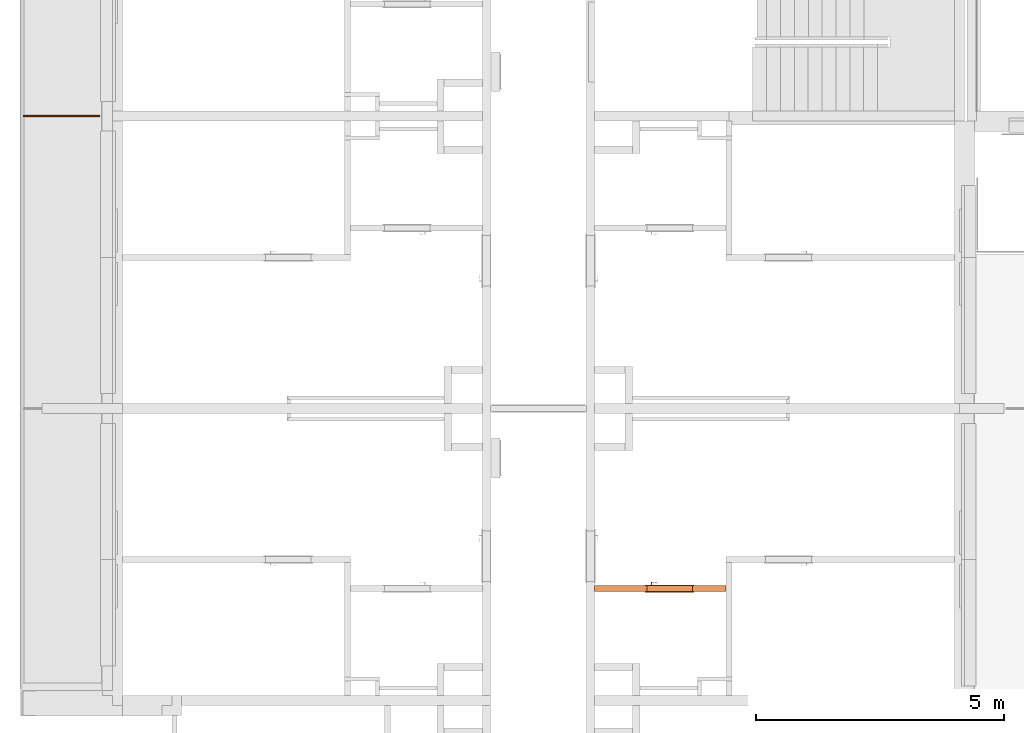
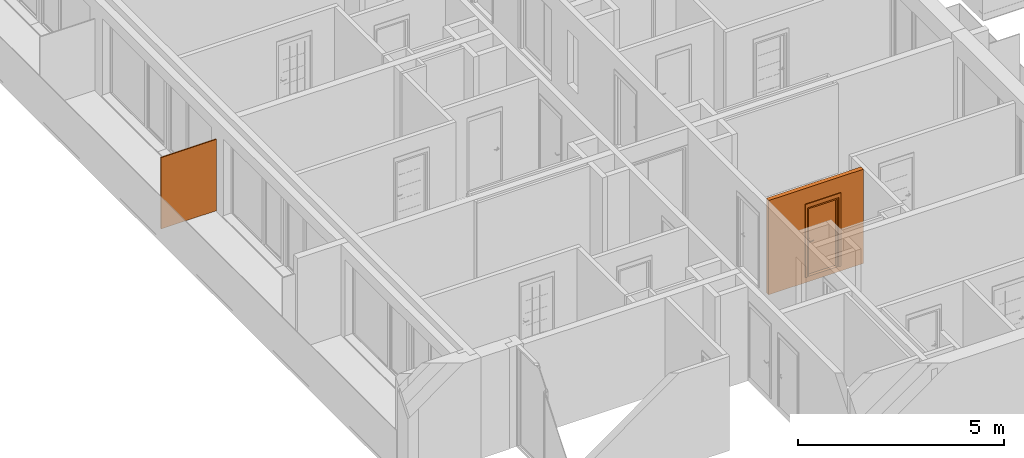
# One storey, part 11 of 64: 3 proxies, 1 opening.
"""IFC2X3 building model written with IfcOpenShell, lengths in millimetres."""

from ifc_helpers import new_model, entity, si_unit, converted_unit, derived_unit, money_unit, direction, frame, origin_with_axes, origin_2d_with_axis, place, context, subcontext, project, spatial, polyline, rectangle, outline, extrude, open_shell, faceted_brep, surface_model, source, transform, mapped, material, type_object, element, fill, save


model = new_model("IFC2X3")

# Units and contexts
model_context = context("Model", 3, precision=0.01, world=origin_with_axes(), true_north=direction((0.34421633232, 0.938890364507)))
body_context = subcontext(model_context, "Body", "Model", "MODEL_VIEW")
ifc_project = project(units=[si_unit("LENGTHUNIT", "METRE", prefix="MILLI"), si_unit("AREAUNIT", "SQUARE_METRE"), si_unit("VOLUMEUNIT", "CUBIC_METRE"), converted_unit("PLANEANGLEUNIT", "DEGREE", entity("IfcPlaneAngleMeasure", 0.0174532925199), si_unit("PLANEANGLEUNIT", "RADIAN"), dimensions=[0, 0, 0, 0, 0, 0, 0]), si_unit("SOLIDANGLEUNIT", "STERADIAN"), money_unit("USD"), converted_unit("TIMEUNIT", "Year", entity("IfcTimeMeasure", 31556926.0), si_unit("TIMEUNIT", "SECOND"), dimensions=[0, 0, 1, 0, 0, 0, 0]), si_unit("MASSUNIT", "GRAM", prefix="KILO"), si_unit("THERMODYNAMICTEMPERATUREUNIT", "DEGREE_CELSIUS"), si_unit("LUMINOUSINTENSITYUNIT", "LUMEN"), si_unit("ENERGYUNIT", "JOULE", prefix="MEGA"), derived_unit("THERMALCONDUCTANCEUNIT", [(si_unit("POWERUNIT", "WATT"), 1), (si_unit("LENGTHUNIT", "METRE"), -1), (si_unit("THERMODYNAMICTEMPERATUREUNIT", "KELVIN"), -1)]), derived_unit("SPECIFICHEATCAPACITYUNIT", [(si_unit("ENERGYUNIT", "JOULE"), 1), (si_unit("MASSUNIT", "GRAM", prefix="KILO"), -1), (si_unit("THERMODYNAMICTEMPERATUREUNIT", "KELVIN"), -1)]), derived_unit("MASSDENSITYUNIT", [(si_unit("MASSUNIT", "GRAM", prefix="KILO"), 1), (si_unit("VOLUMEUNIT", "CUBIC_METRE"), -1)])], contexts=[model_context])

# Site, building, storey
site_placement = place(None, origin_with_axes())
site = spatial("IfcSite", under=ifc_project, at=site_placement, Name="USTRONIE MORSKIE", CompositionType="ELEMENT")
building_placement = place(site_placement, origin_with_axes())
building = spatial("IfcBuilding", under=site, at=building_placement, Name="Budynek", CompositionType="ELEMENT")
storey_placement = place(building_placement, frame((0.0, 0.0, 7000.0), z_axis=(0.0, 0.0, 1.0), x_axis=(1.0, 0.0, 0.0)))
storey = spatial("IfcBuildingStorey", under=building, at=storey_placement, Name="PIĘTRO 2", CompositionType="ELEMENT", Elevation=7000.0)

# Proxies, opening
ifc_material_1 = material(Name="Bloczki silikatowe")
building_element_proxy_type_1 = type_object("IfcBuildingElementProxyType", Name="Bloczki silikatowe 120", PredefinedType="NOTDEFINED")
proxy_1_placement = place(storey_placement, frame((362417.920919, 717361.219701, -160.0), z_axis=(0.0, 0.0, 1.0), x_axis=(-1.0, 0.0, 0.0)))
proxy_1 = element("IfcBuildingElementProxy", 1, at=proxy_1_placement, inside=storey, type_object=building_element_proxy_type_1, material=ifc_material_1, Name="SW-04", context=body_context, shape_type="Brep", body=[
    faceted_brep([(2720.0, -59.9999999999, 2800.0), (2720.0, 59.9999999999, 2800.0), (60.0, 59.9999999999, 2800.0), (60.0, -59.9999999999, 2800.0), (2720.0, -59.9999999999, 0.0), (2720.0, 59.9999999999, 0.0), (60.0, 59.9999999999, 0.0), (60.0, -59.9999999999, 0.0)], [[[0, 1, 2, 3]], [[1, 0, 4, 5]], [[1, 5, 6, 2]], [[7, 3, 2, 6]], [[4, 0, 3, 7]], [[5, 4, 7, 6]]]),
])
opening_placement = place(proxy_1_placement, frame((1200.0, 0.0, 160.0), z_axis=(0.0, 0.0, 1.0), x_axis=(1.0, 0.0, 0.0)))
opening = element("IfcOpeningElement", 2, at=opening_placement, cuts=proxy_1, Name="Dw.4", context=body_context, shape_type="SweptSolid", body=[
    extrude(rectangle(XDim=920.0, YDim=2070.0, at=origin_2d_with_axis()), frame((0.0, 120.0, 1035.0), z_axis=(0.0, -1.0, 0.0), x_axis=(-1.0, 0.0, 0.0)), (0.0, 0.0, 1.0), 360.0),
    extrude(rectangle(XDim=994.0, YDim=2177.0, at=origin_2d_with_axis()), frame((0.0, 60.0000000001, 1088.5), z_axis=(0.0, -1.0, 0.0), x_axis=(-1.0, 0.0, 0.0)), (0.0, 0.0, -1.0), 120.0),
    extrude(rectangle(XDim=994.0, YDim=2177.0, at=origin_2d_with_axis()), frame((0.0, -59.9999999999, 1088.5), z_axis=(0.0, 1.0, 0.0), x_axis=(-1.0, 0.0, 0.0)), (0.0, 0.0, -1.0), 120.0),
])
building_element_proxy_type_2 = type_object("IfcBuildingElementProxyType", Name="Drzwi 23", PredefinedType="NOTDEFINED")
shared_shape = source(origin_with_axes(), body_context, "Body", "SurfaceModel", [
    faceted_brep([(-460.0, -115.0, 0.0), (-435.0, -115.0, 0.0), (-435.0, -120.0, 0.0), (-460.0, -120.0, 0.0), (-460.0, -115.0, 2070.0), (-435.0, -115.0, 2045.0), (-435.0, -120.0, 2045.0), (-460.0, -120.0, 2070.0)], [[[0, 1, 2, 3]], [[0, 4, 5, 1]], [[1, 5, 6, 2]], [[3, 2, 6, 7]], [[4, 0, 3, 7]], [[5, 4, 7, 6]]]),
    faceted_brep([(460.0, -115.0, 2070.0), (435.0, -115.0, 2045.0), (435.0, -120.0, 2045.0), (460.0, -120.0, 2070.0), (460.0, -115.0, 0.0), (435.0, -115.0, 0.0), (435.0, -120.0, 0.0), (460.0, -120.0, 0.0)], [[[0, 1, 2, 3]], [[0, 4, 5, 1]], [[1, 5, 6, 2]], [[3, 2, 6, 7]], [[4, 0, 3, 7]], [[5, 4, 7, 6]]]),
    faceted_brep([(-435.0, -115.0, 2045.0), (435.0, -115.0, 2045.0), (435.0, -120.0, 2045.0), (-435.0, -120.0, 2045.0), (-460.0, -115.0, 2070.0), (460.0, -115.0, 2070.0), (460.0, -120.0, 2070.0), (-460.0, -120.0, 2070.0)], [[[0, 1, 2, 3]], [[0, 4, 5, 1]], [[1, 5, 6, 2]], [[3, 2, 6, 7]], [[4, 0, 3, 7]], [[5, 4, 7, 6]]]),
    faceted_brep([(-497.0, -139.0, 0.0), (-497.0, -120.0, 0.0), (-447.0, -120.0, 0.0), (-447.0, -139.0, 0.0), (-497.0, -139.0, 2177.0), (-497.0, -120.0, 2177.0), (-447.0, -120.0, 2057.0), (-447.0, -139.0, 2057.0)], [[[0, 1, 2, 3]], [[4, 5, 1, 0]], [[1, 5, 6, 2]], [[3, 2, 6, 7]], [[0, 3, 7, 4]], [[7, 6, 5, 4]]]),
    faceted_brep([(497.0, -139.0, 2177.0), (497.0, -120.0, 2177.0), (447.0, -120.0, 2057.0), (447.0, -139.0, 2057.0), (497.0, -139.0, 0.0), (497.0, -120.0, 0.0), (447.0, -120.0, 0.0), (447.0, -139.0, 0.0)], [[[0, 1, 2, 3]], [[4, 5, 1, 0]], [[1, 5, 6, 2]], [[3, 2, 6, 7]], [[0, 3, 7, 4]], [[7, 6, 5, 4]]]),
    faceted_brep([(-497.0, -139.0, 2177.0), (-497.0, -120.0, 2177.0), (-447.0, -120.0, 2057.0), (-447.0, -139.0, 2057.0), (497.0, -139.0, 2177.0), (497.0, -120.0, 2177.0), (447.0, -120.0, 2057.0), (447.0, -139.0, 2057.0)], [[[0, 1, 2, 3]], [[4, 5, 1, 0]], [[1, 5, 6, 2]], [[3, 2, 6, 7]], [[0, 3, 7, 4]], [[7, 6, 5, 4]]]),
    faceted_brep([(-497.0, 19.0, 0.0), (-447.0, 19.0, 0.0), (-447.0, 0.0, 0.0), (-497.0, 0.0, 0.0), (-497.0, 19.0, 2177.0), (-447.0, 19.0, 2057.0), (-447.0, 0.0, 2057.0), (-497.0, 0.0, 2177.0)], [[[0, 1, 2, 3]], [[0, 4, 5, 1]], [[1, 5, 6, 2]], [[3, 2, 6, 7]], [[4, 0, 3, 7]], [[5, 4, 7, 6]]]),
    faceted_brep([(497.0, 19.0, 2177.0), (447.0, 19.0, 2057.0), (447.0, 0.0, 2057.0), (497.0, 0.0, 2177.0), (497.0, 19.0, 0.0), (447.0, 19.0, 0.0), (447.0, 0.0, 0.0), (497.0, 0.0, 0.0)], [[[0, 1, 2, 3]], [[0, 4, 5, 1]], [[1, 5, 6, 2]], [[3, 2, 6, 7]], [[4, 0, 3, 7]], [[5, 4, 7, 6]]]),
    faceted_brep([(-497.0, 19.0, 2177.0), (-447.0, 19.0, 2057.0), (-447.0, 0.0, 2057.0), (-497.0, 0.0, 2177.0), (497.0, 19.0, 2177.0), (447.0, 19.0, 2057.0), (447.0, 0.0, 2057.0), (497.0, 0.0, 2177.0)], [[[0, 1, 2, 3]], [[0, 4, 5, 1]], [[1, 5, 6, 2]], [[3, 2, 6, 7]], [[4, 0, 3, 7]], [[5, 4, 7, 6]]]),
    faceted_brep([(-400.0, -40.0, 0.0), (-400.0, -40.0, 2000.0), (-400.0, -115.0, 2000.0), (-400.0, -115.0, 0.0), (-412.0, -40.0, 2000.0), (-412.0, -40.0, 0.0), (-412.0, 0.0, 2000.0), (-460.0, 0.0, 2000.0), (-460.0, -115.0, 2000.0), (-460.0, -115.0, 0.0), (-460.0, 0.0, 0.0), (-412.0, 0.0, 0.0)], [[[0, 1, 2, 3]], [[4, 1, 0, 5]], [[4, 6, 7, 8, 2, 1]], [[3, 2, 8, 9]], [[5, 0, 3, 9, 10, 11]], [[6, 4, 5, 11]], [[6, 11, 10, 7]], [[10, 9, 8, 7]]]),
    faceted_brep([(412.0, -40.0, 2000.0), (400.0, -40.0, 2000.0), (400.0, -115.0, 2000.0), (460.0, -115.0, 2000.0), (460.0, 0.0, 2000.0), (412.0, 0.0, 2000.0), (412.0, -40.0, 0.0), (400.0, -40.0, 0.0), (400.0, -115.0, 0.0), (460.0, -115.0, 0.0), (460.0, 0.0, 0.0), (412.0, 0.0, 0.0)], [[[0, 1, 2, 3, 4, 5]], [[1, 0, 6, 7]], [[1, 7, 8, 2]], [[3, 2, 8, 9]], [[4, 3, 9, 10]], [[11, 5, 4, 10]], [[0, 5, 11, 6]], [[6, 11, 10, 9, 8, 7]]]),
    faceted_brep([(-412.0, 0.0, 2012.0), (-412.0, 0.0, 2000.0), (-460.0, 0.0, 2000.0), (-460.0, 0.0, 2070.0), (460.0, 0.0, 2070.0), (460.0, 0.0, 2000.0), (412.0, 0.0, 2000.0), (412.0, 0.0, 2012.0), (-412.0, -40.0, 2012.0), (-412.0, -40.0, 2000.0), (-400.0, -40.0, 2000.0), (-400.0, -115.0, 2000.0), (-460.0, -115.0, 2000.0), (-460.0, -115.0, 2070.0), (460.0, -115.0, 2070.0), (460.0, -115.0, 2000.0), (412.0, -40.0, 2000.0), (400.0, -115.0, 2000.0), (400.0, -40.0, 2000.0), (412.0, -40.0, 2012.0)], [[[0, 1, 2, 3, 4, 5, 6, 7]], [[1, 0, 8, 9]], [[9, 10, 11, 12, 2, 1]], [[2, 12, 13, 3]], [[3, 13, 14, 4]], [[4, 14, 15, 5]], [[16, 6, 5, 15, 17, 18]], [[7, 6, 16, 19]], [[0, 7, 19, 8]], [[16, 18, 10, 9, 8, 19]], [[10, 18, 17, 11]], [[17, 15, 14, 13, 12, 11]]]),
    faceted_brep([(-390.5, -40.0, 1060.0), (-390.5, -43.0, 1060.0), (-333.5, -43.0, 1060.0), (-333.5, -40.0, 1060.0), (-390.5, -40.0, 870.0), (-390.5, -43.0, 870.0), (-333.5, -43.0, 870.0), (-333.5, -40.0, 870.0)], [[[0, 1, 2, 3]], [[4, 5, 1, 0]], [[1, 5, 6, 2]], [[3, 2, 6, 7]], [[0, 3, 7, 4]], [[7, 6, 5, 4]]]),
    faceted_brep([(-362.0, -104.0, 990.0), (-362.0, -111.0, 990.0), (-367.0, -111.0, 991.339745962), (-367.0, -104.0, 991.339745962), (-337.0, -104.0, 990.0), (-337.0, -111.0, 990.0), (-337.0, -111.0, 1010.0), (-362.0, -111.0, 1010.0), (-367.0, -111.0, 1008.66025404), (-370.660254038, -111.0, 1005.0), (-372.0, -111.0, 1000.0), (-370.660254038, -111.0, 995.0), (-370.660254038, -104.0, 995.0), (-372.0, -104.0, 1000.0), (-370.660254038, -104.0, 1005.0), (-367.0, -104.0, 1008.66025404), (-362.0, -104.0, 1010.0), (-337.0, -104.0, 1010.0)], [[[0, 1, 2, 3]], [[4, 5, 1, 0]], [[1, 5, 6, 7, 8, 9, 10, 11, 2]], [[3, 2, 11, 12]], [[0, 3, 12, 13, 14, 15, 16, 17, 4]], [[17, 6, 5, 4]], [[16, 7, 6, 17]], [[15, 8, 7, 16]], [[14, 9, 8, 15]], [[13, 10, 9, 14]], [[12, 11, 10, 13]]]),
    surface_model("IfcShellBasedSurfaceModel", [(-337.0, -104.0, 1010.0), (-323.596090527, -111.0, 1009.60730092), (-323.901717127, -104.0, 1009.60730092), (-337.0, -111.0, 1010.0), (-296.890283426, -108.663544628, 1008.82190275), (-323.901717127, -104.0, 990.392699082), (-337.0, -104.0, 990.0), (-337.0, -111.0, 990.0), (-323.596090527, -111.0, 990.392699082), (-296.890283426, -108.663544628, 991.178097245), (-297.804837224, -101.716818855, 1008.82190275), (-297.804837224, -101.716818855, 991.178097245), (-270.489735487, -104.008415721, 991.963495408), (-270.489735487, -104.008415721, 1008.03650459), (-272.006256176, -97.1678329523, 1008.03650459), (-272.006256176, -97.1678329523, 991.963495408), (-244.59537082, -97.0700416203, 992.748893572), (-244.59537082, -97.0700416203, 1007.25110643), (-246.702316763, -90.3876628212, 1007.25110643), (-246.702316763, -90.3876628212, 992.748893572), (-236.538795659, -94.1376880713, 993.0), (-236.538795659, -94.1376880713, 1007.0), (-238.829442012, -87.5221707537, 1007.0), (-238.829442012, -87.5221707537, 993.0)], [open_shell([[[0, 1, 2]], [[0, 3, 1]], [[2, 1, 4]], [[0, 2, 5, 6]], [[3, 7, 8, 1]], [[1, 8, 9, 4]], [[2, 4, 10]], [[2, 10, 11, 5]], [[5, 7, 6]], [[5, 8, 7]], [[11, 9, 8]], [[4, 9, 12, 13]], [[10, 4, 13]], [[10, 14, 15, 11]], [[11, 8, 5]], [[15, 9, 11]], [[15, 12, 9]], [[13, 12, 16, 17]], [[10, 13, 14]], [[14, 18, 19, 15]], [[19, 12, 15]], [[19, 16, 12]], [[17, 16, 20, 21]], [[14, 13, 17]], [[14, 17, 18]], [[18, 22, 23, 19]], [[23, 16, 19]], [[23, 20, 16]], [[22, 21, 20, 23]], [[18, 17, 21]], [[18, 21, 22]]])]),
    faceted_brep([(-351.607695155, -53.0, 994.0), (-350.741669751, -43.0, 993.5), (-349.0, -43.0, 1000.0), (-350.0, -53.0, 1000.0), (-356.0, -53.0, 989.607695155), (-355.5, -43.0, 988.741669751), (-362.0, -43.0, 987.0), (-368.5, -43.0, 988.741669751), (-373.258330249, -43.0, 993.5), (-375.0, -43.0, 1000.0), (-373.258330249, -43.0, 1006.5), (-368.5, -43.0, 1011.25833025), (-362.0, -43.0, 1013.0), (-355.5, -43.0, 1011.25833025), (-350.741669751, -43.0, 1006.5), (-351.607695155, -53.0, 1006.0), (-356.0, -53.0, 1010.39230485), (-362.0, -53.0, 1012.0), (-368.0, -53.0, 1010.39230485), (-372.392304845, -53.0, 1006.0), (-374.0, -53.0, 1000.0), (-372.392304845, -53.0, 994.0), (-368.0, -53.0, 989.607695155), (-362.0, -53.0, 988.0)], [[[0, 1, 2, 3]], [[4, 5, 1, 0]], [[2, 1, 5, 6, 7, 8, 9, 10, 11, 12, 13, 14]], [[3, 2, 14, 15]], [[3, 15, 16, 17, 18, 19, 20, 21, 22, 23, 4, 0]], [[23, 6, 5, 4]], [[22, 7, 6, 23]], [[21, 8, 7, 22]], [[20, 9, 8, 21]], [[19, 10, 9, 20]], [[18, 11, 10, 19]], [[17, 12, 11, 18]], [[16, 13, 12, 17]], [[15, 14, 13, 16]]]),
    faceted_brep([(-344.679491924, -47.0, 895.0), (-342.947441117, -43.0, 894.0), (-340.0, -43.0, 905.0), (-342.0, -47.0, 905.0), (-352.0, -47.0, 887.679491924), (-351.0, -43.0, 885.947441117), (-362.0, -43.0, 883.0), (-373.0, -43.0, 885.947441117), (-381.052558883, -43.0, 894.0), (-384.0, -43.0, 905.0), (-381.052558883, -43.0, 916.0), (-373.0, -43.0, 924.052558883), (-362.0, -43.0, 927.0), (-351.0, -43.0, 924.052558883), (-342.947441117, -43.0, 916.0), (-344.679491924, -47.0, 915.0), (-352.0, -47.0, 922.320508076), (-362.0, -47.0, 925.0), (-372.0, -47.0, 922.320508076), (-379.320508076, -47.0, 915.0), (-382.0, -47.0, 905.0), (-379.320508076, -47.0, 895.0), (-372.0, -47.0, 887.679491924), (-362.0, -47.0, 885.0)], [[[0, 1, 2, 3]], [[4, 5, 1, 0]], [[2, 1, 5, 6, 7, 8, 9, 10, 11, 12, 13, 14]], [[3, 2, 14, 15]], [[3, 15, 16, 17, 18, 19, 20, 21, 22, 23, 4, 0]], [[23, 6, 5, 4]], [[22, 7, 6, 23]], [[21, 8, 7, 22]], [[20, 9, 8, 21]], [[19, 10, 9, 20]], [[18, 11, 10, 19]], [[17, 12, 11, 18]], [[16, 13, 12, 17]], [[15, 14, 13, 16]]]),
    faceted_brep([(-357.050252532, -49.0, 909.050252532), (-356.343145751, -47.0, 908.343145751), (-354.0, -47.0, 914.0), (-355.0, -49.0, 914.0), (-362.0, -49.0, 907.0), (-362.0, -47.0, 906.0), (-367.656854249, -47.0, 908.343145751), (-370.0, -47.0, 914.0), (-367.656854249, -47.0, 919.656854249), (-362.0, -47.0, 922.0), (-356.343145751, -47.0, 919.656854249), (-357.050252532, -49.0, 918.949747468), (-362.0, -49.0, 921.0), (-366.949747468, -49.0, 918.949747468), (-369.0, -49.0, 914.0), (-366.949747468, -49.0, 909.050252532)], [[[0, 1, 2, 3]], [[4, 5, 1, 0]], [[2, 1, 5, 6, 7, 8, 9, 10]], [[3, 2, 10, 11]], [[3, 11, 12, 13, 14, 15, 4, 0]], [[15, 6, 5, 4]], [[14, 7, 6, 15]], [[13, 8, 7, 14]], [[12, 9, 8, 13]], [[11, 10, 9, 12]]]),
    faceted_brep([(-362.0, -53.0, 1010.0), (-362.0, -104.0, 1010.0), (-357.0, -104.0, 1008.66025404), (-357.0, -53.0, 1008.66025404), (-367.0, -53.0, 1008.66025404), (-367.0, -104.0, 1008.66025404), (-370.660254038, -104.0, 1005.0), (-372.0, -104.0, 1000.0), (-370.660254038, -104.0, 995.0), (-367.0, -104.0, 991.339745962), (-362.0, -104.0, 990.0), (-357.0, -104.0, 991.339745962), (-353.339745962, -104.0, 995.0), (-352.0, -104.0, 1000.0), (-353.339745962, -104.0, 1005.0), (-353.339745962, -53.0, 1005.0), (-352.0, -53.0, 1000.0), (-353.339745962, -53.0, 995.0), (-357.0, -53.0, 991.339745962), (-362.0, -53.0, 990.0), (-367.0, -53.0, 991.339745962), (-370.660254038, -53.0, 995.0), (-372.0, -53.0, 1000.0), (-370.660254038, -53.0, 1005.0)], [[[0, 1, 2, 3]], [[4, 5, 1, 0]], [[1, 5, 6, 7, 8, 9, 10, 11, 12, 13, 14, 2]], [[3, 2, 14, 15]], [[0, 3, 15, 16, 17, 18, 19, 20, 21, 22, 23, 4]], [[23, 6, 5, 4]], [[22, 7, 6, 23]], [[21, 8, 7, 22]], [[20, 9, 8, 21]], [[19, 10, 9, 20]], [[18, 11, 10, 19]], [[17, 12, 11, 18]], [[16, 13, 12, 17]], [[15, 14, 13, 16]]]),
    faceted_brep([(-390.5, 0.0, 1060.0), (-333.5, 0.0, 1060.0), (-333.5, 3.0, 1060.0), (-390.5, 3.0, 1060.0), (-390.5, 0.0, 870.0), (-333.5, 0.0, 870.0), (-333.5, 3.0, 870.0), (-390.5, 3.0, 870.0)], [[[0, 1, 2, 3]], [[0, 4, 5, 1]], [[1, 5, 6, 2]], [[3, 2, 6, 7]], [[4, 0, 3, 7]], [[5, 4, 7, 6]]]),
    faceted_brep([(-362.0, 64.0, 990.0), (-367.0, 64.0, 991.339745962), (-367.0, 71.0, 991.339745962), (-362.0, 71.0, 990.0), (-337.0, 64.0, 990.0), (-337.0, 64.0, 1010.0), (-362.0, 64.0, 1010.0), (-367.0, 64.0, 1008.66025404), (-370.660254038, 64.0, 1005.0), (-372.0, 64.0, 1000.0), (-370.660254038, 64.0, 995.0), (-370.660254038, 71.0, 995.0), (-372.0, 71.0, 1000.0), (-370.660254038, 71.0, 1005.0), (-367.0, 71.0, 1008.66025404), (-362.0, 71.0, 1010.0), (-337.0, 71.0, 1010.0), (-337.0, 71.0, 990.0)], [[[0, 1, 2, 3]], [[0, 4, 5, 6, 7, 8, 9, 10, 1]], [[1, 10, 11, 2]], [[3, 2, 11, 12, 13, 14, 15, 16, 17]], [[4, 0, 3, 17]], [[5, 4, 17, 16]], [[6, 5, 16, 15]], [[7, 6, 15, 14]], [[8, 7, 14, 13]], [[9, 8, 13, 12]], [[10, 9, 12, 11]]]),
    surface_model("IfcShellBasedSurfaceModel", [(-337.0, 64.0, 1010.0), (-323.901717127, 64.0, 1009.60730092), (-323.596090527, 71.0, 1009.60730092), (-337.0, 64.0, 990.0), (-323.901717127, 64.0, 990.392699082), (-296.890283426, 68.6635446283, 1008.82190275), (-337.0, 71.0, 1010.0), (-337.0, 71.0, 990.0), (-297.804837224, 61.716818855, 991.178097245), (-297.804837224, 61.716818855, 1008.82190275), (-296.890283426, 68.6635446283, 991.178097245), (-323.596090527, 71.0, 990.392699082), (-272.006256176, 57.1678329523, 991.963495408), (-272.006256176, 57.1678329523, 1008.03650459), (-270.489735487, 64.0084157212, 1008.03650459), (-270.489735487, 64.0084157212, 991.963495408), (-246.702316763, 50.3876628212, 992.748893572), (-246.702316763, 50.3876628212, 1007.25110643), (-244.59537082, 57.0700416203, 1007.25110643), (-244.59537082, 57.0700416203, 992.748893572), (-238.829442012, 47.5221707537, 993.0), (-238.829442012, 47.5221707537, 1007.0), (-236.538795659, 54.1376880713, 1007.0), (-236.538795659, 54.1376880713, 993.0)], [open_shell([[[0, 1, 2]], [[0, 3, 4, 1]], [[1, 5, 2]], [[0, 2, 6]], [[4, 3, 7]], [[1, 4, 8, 9]], [[1, 9, 5]], [[2, 5, 10, 11]], [[6, 2, 11, 7]], [[4, 7, 11]], [[8, 4, 11]], [[9, 8, 12, 13]], [[9, 14, 5]], [[5, 14, 15, 10]], [[8, 11, 10]], [[12, 8, 10]], [[13, 12, 16, 17]], [[9, 13, 14]], [[14, 18, 19, 15]], [[12, 10, 15]], [[16, 12, 15]], [[17, 16, 20, 21]], [[13, 17, 18]], [[13, 18, 14]], [[18, 22, 23, 19]], [[16, 15, 19]], [[20, 16, 19]], [[21, 20, 23, 22]], [[17, 21, 22]], [[17, 22, 18]], [[20, 19, 23]]])]),
    faceted_brep([(-351.607695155, 13.0, 994.0), (-350.0, 13.0, 1000.0), (-349.0, 3.0, 1000.0), (-350.741669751, 3.0, 993.5), (-356.0, 13.0, 989.607695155), (-362.0, 13.0, 988.0), (-368.0, 13.0, 989.607695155), (-372.392304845, 13.0, 994.0), (-374.0, 13.0, 1000.0), (-372.392304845, 13.0, 1006.0), (-368.0, 13.0, 1010.39230485), (-362.0, 13.0, 1012.0), (-356.0, 13.0, 1010.39230485), (-351.607695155, 13.0, 1006.0), (-350.741669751, 3.0, 1006.5), (-355.5, 3.0, 1011.25833025), (-362.0, 3.0, 1013.0), (-368.5, 3.0, 1011.25833025), (-373.258330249, 3.0, 1006.5), (-375.0, 3.0, 1000.0), (-373.258330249, 3.0, 993.5), (-368.5, 3.0, 988.741669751), (-362.0, 3.0, 987.0), (-355.5, 3.0, 988.741669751)], [[[0, 1, 2, 3]], [[1, 0, 4, 5, 6, 7, 8, 9, 10, 11, 12, 13]], [[1, 13, 14, 2]], [[2, 14, 15, 16, 17, 18, 19, 20, 21, 22, 23, 3]], [[4, 0, 3, 23]], [[5, 4, 23, 22]], [[6, 5, 22, 21]], [[7, 6, 21, 20]], [[8, 7, 20, 19]], [[9, 8, 19, 18]], [[10, 9, 18, 17]], [[11, 10, 17, 16]], [[12, 11, 16, 15]], [[13, 12, 15, 14]]]),
    faceted_brep([(-344.679491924, 7.0, 895.0), (-342.0, 7.0, 905.0), (-340.0, 3.0, 905.0), (-342.947441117, 3.0, 894.0), (-352.0, 7.0, 887.679491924), (-362.0, 7.0, 885.0), (-372.0, 7.0, 887.679491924), (-379.320508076, 7.0, 895.0), (-382.0, 7.0, 905.0), (-379.320508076, 7.0, 915.0), (-372.0, 7.0, 922.320508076), (-362.0, 7.0, 925.0), (-352.0, 7.0, 922.320508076), (-344.679491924, 7.0, 915.0), (-342.947441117, 3.0, 916.0), (-351.0, 3.0, 924.052558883), (-362.0, 3.0, 927.0), (-373.0, 3.0, 924.052558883), (-381.052558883, 3.0, 916.0), (-384.0, 3.0, 905.0), (-381.052558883, 3.0, 894.0), (-373.0, 3.0, 885.947441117), (-362.0, 3.0, 883.0), (-351.0, 3.0, 885.947441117)], [[[0, 1, 2, 3]], [[1, 0, 4, 5, 6, 7, 8, 9, 10, 11, 12, 13]], [[1, 13, 14, 2]], [[2, 14, 15, 16, 17, 18, 19, 20, 21, 22, 23, 3]], [[4, 0, 3, 23]], [[5, 4, 23, 22]], [[6, 5, 22, 21]], [[7, 6, 21, 20]], [[8, 7, 20, 19]], [[9, 8, 19, 18]], [[10, 9, 18, 17]], [[11, 10, 17, 16]], [[12, 11, 16, 15]], [[13, 12, 15, 14]]]),
    faceted_brep([(-357.050252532, 9.0, 909.050252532), (-355.0, 9.0, 914.0), (-354.0, 7.0, 914.0), (-356.343145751, 7.0, 908.343145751), (-362.0, 9.0, 907.0), (-366.949747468, 9.0, 909.050252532), (-369.0, 9.0, 914.0), (-366.949747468, 9.0, 918.949747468), (-362.0, 9.0, 921.0), (-357.050252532, 9.0, 918.949747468), (-356.343145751, 7.0, 919.656854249), (-362.0, 7.0, 922.0), (-367.656854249, 7.0, 919.656854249), (-370.0, 7.0, 914.0), (-367.656854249, 7.0, 908.343145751), (-362.0, 7.0, 906.0)], [[[0, 1, 2, 3]], [[1, 0, 4, 5, 6, 7, 8, 9]], [[1, 9, 10, 2]], [[2, 10, 11, 12, 13, 14, 15, 3]], [[4, 0, 3, 15]], [[5, 4, 15, 14]], [[6, 5, 14, 13]], [[7, 6, 13, 12]], [[8, 7, 12, 11]], [[9, 8, 11, 10]]]),
    faceted_brep([(-362.0, 13.0, 1010.0), (-357.0, 13.0, 1008.66025404), (-357.0, 64.0, 1008.66025404), (-362.0, 64.0, 1010.0), (-367.0, 13.0, 1008.66025404), (-370.660254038, 13.0, 1005.0), (-372.0, 13.0, 1000.0), (-370.660254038, 13.0, 995.0), (-367.0, 13.0, 991.339745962), (-362.0, 13.0, 990.0), (-357.0, 13.0, 991.339745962), (-353.339745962, 13.0, 995.0), (-352.0, 13.0, 1000.0), (-353.339745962, 13.0, 1005.0), (-353.339745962, 64.0, 1005.0), (-352.0, 64.0, 1000.0), (-353.339745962, 64.0, 995.0), (-357.0, 64.0, 991.339745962), (-362.0, 64.0, 990.0), (-367.0, 64.0, 991.339745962), (-370.660254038, 64.0, 995.0), (-372.0, 64.0, 1000.0), (-370.660254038, 64.0, 1005.0), (-367.0, 64.0, 1008.66025404)], [[[0, 1, 2, 3]], [[0, 4, 5, 6, 7, 8, 9, 10, 11, 12, 13, 1]], [[1, 13, 14, 2]], [[3, 2, 14, 15, 16, 17, 18, 19, 20, 21, 22, 23]], [[4, 0, 3, 23]], [[5, 4, 23, 22]], [[6, 5, 22, 21]], [[7, 6, 21, 20]], [[8, 7, 20, 19]], [[9, 8, 19, 18]], [[10, 9, 18, 17]], [[11, 10, 17, 16]], [[12, 11, 16, 15]], [[13, 12, 15, 14]]]),
    faceted_brep([(412.0, 0.0, 0.0), (412.0, -40.0, 0.0), (-412.0, -40.0, 0.0), (-412.0, 0.0, 0.0), (412.0, 0.0, 2012.0), (412.0, -40.0, 2012.0), (-412.0, -40.0, 2012.0), (-412.0, 0.0, 2012.0)], [[[0, 1, 2, 3]], [[4, 5, 1, 0]], [[1, 5, 6, 2]], [[3, 2, 6, 7]], [[0, 3, 7, 4]], [[7, 6, 5, 4]]]),
])
proxy_2_placement = place(opening_placement, frame((400.0, 0.0, 0.0), z_axis=(0.0, 0.0, 1.0), x_axis=(-1.0, 0.0, 0.0)))
proxy_2 = element("IfcBuildingElementProxy", 3, at=proxy_2_placement, inside=storey, type_object=building_element_proxy_type_2, Name="Dw.4", context=body_context, shape_type="MappedRepresentation", body=[
    mapped(shared_shape, transform((400.0, 59.9999999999, 0.0))),
])
fill(opening, proxy_2)

# Proxy
ifc_material_2 = material(Name="Woda")
building_element_proxy_type_3 = type_object("IfcBuildingElementProxyType", Name="Woda 30", PredefinedType="NOTDEFINED")
proxy_3_placement = place(storey_placement, frame((349717.920919, 726901.199036, 20.0), z_axis=(0.0, 0.0, 1.0), x_axis=(-1.0, 0.0, 0.0)))
element("IfcBuildingElementProxy", 4, at=proxy_3_placement, inside=storey, type_object=building_element_proxy_type_3, material=ifc_material_2, Name="Œciana-007", context=body_context, shape_type="SweptSolid", body=[
    extrude(outline(polyline([(0.0, -15.0), (1550.0, -15.0), (1550.0, 15.0), (0.0, 15.0), (0.0, -15.0)])), origin_with_axes(), (0.0, 0.0, 1.0), 2120.0),
])

save(model, "model.ifc")
